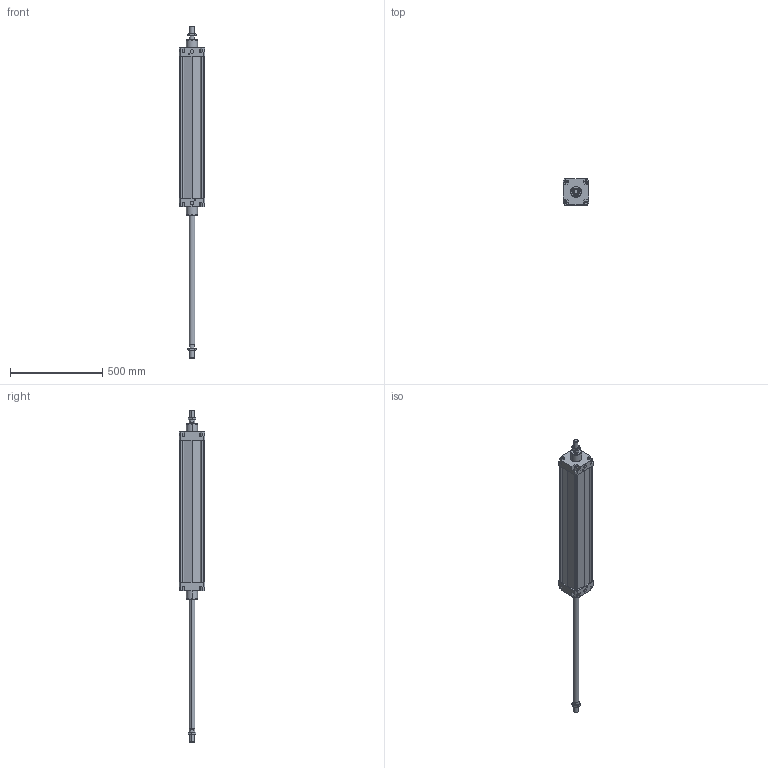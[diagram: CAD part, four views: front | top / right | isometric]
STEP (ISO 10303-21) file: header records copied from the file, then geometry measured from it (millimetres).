
FILE_DESCRIPTION((''),'2;1');
FILE_NAME('I:\DOC-EDP\Lib-3d\1319\CILINDRI\Ø125\1319_125_0700_02.stp','2003-04-08T12:27:17',('maffial1'),(''),'Autodesk Inventor (R) 6.0','Autodesk Inventor (R) 6.0','');
FILE_SCHEMA(('AUTOMOTIVE_DESIGN { 1 0 10303 214 1 1 1 1 }'));
Length unit declared in the file: millimetre
Products named in the file (4): 1319_125_0700_02; CIM04_125_700; CIM03_125_700; 1320_125_18F
Assembly tree (4 placements, depth 2):
  1319_125_0700_02
    CIM04_125_700
    CIM03_125_700
    1320_125_18F  x2
Bounding box: 140 x 140 x 1798 mm (x, y, z)
Volume: 14783222.1 mm3; surface area: 849544.1 mm2
Topology: 4 solids, 4 shells, 290 faces, 724 edges, 452 vertices
Faces by surface type: plane 130, bspline 72, cone 60, cylinder 28
Entity records: 8094 total; most frequent: CARTESIAN_POINT 1972, ORIENTED_EDGE 1288, DIRECTION 1160, EDGE_CURVE 644, VECTOR 480, LINE 480, VERTEX_POINT 416, AXIS2_PLACEMENT_3D 340
